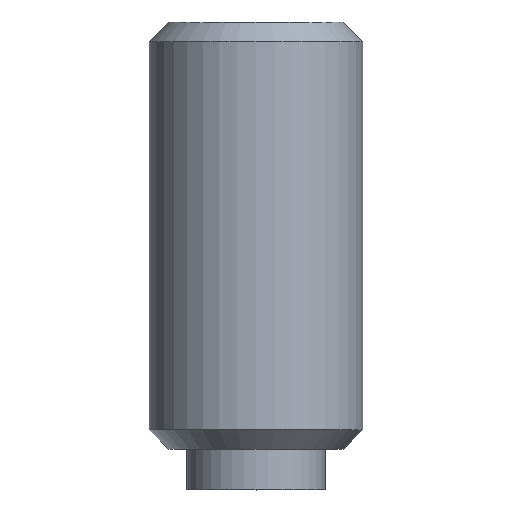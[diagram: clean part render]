
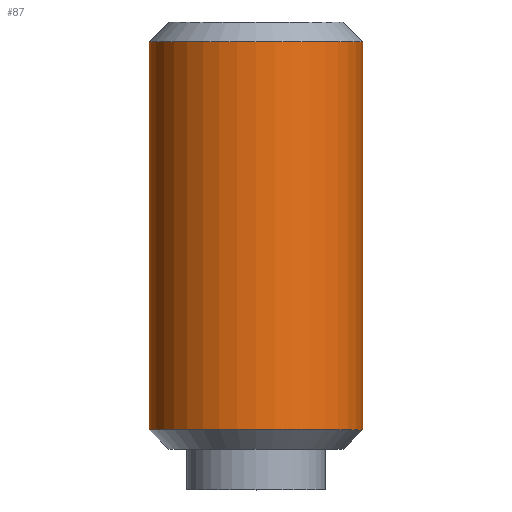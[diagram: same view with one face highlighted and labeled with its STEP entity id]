
A CAD part, top view. The second image highlights one B-rep face of the part: STEP entity #87.
In plain terms, the highlighted cylindrical face has radius 5 mm (diameter 10 mm), a full revolution.
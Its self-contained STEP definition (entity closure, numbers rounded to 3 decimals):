
#87 = ADVANCED_FACE( '', ( #118, #119 ), #120, .T. );
#118 = FACE_OUTER_BOUND( '', #152, .T. );
#119 = FACE_OUTER_BOUND( '', #153, .T. );
#120 = CYLINDRICAL_SURFACE( '', #154, 5. );
#152 = EDGE_LOOP( '', ( #238 ) );
#153 = EDGE_LOOP( '', ( #239 ) );
#154 = AXIS2_PLACEMENT_3D( '', #240, #241, #242 );
#238 = ORIENTED_EDGE( '', *, *, #270, .F. );
#239 = ORIENTED_EDGE( '', *, *, #271, .T. );
#240 = CARTESIAN_POINT( '', ( 0., 0., 0. ) );
#241 = DIRECTION( '', ( 0., 1., 0. ) );
#242 = DIRECTION( '', ( 0., 0., -1. ) );
#270 = EDGE_CURVE( '', #310, #310, #311, .T. );
#271 = EDGE_CURVE( '', #312, #312, #313, .T. );
#310 = VERTEX_POINT( '', #370 );
#311 = CIRCLE( '', #371, 5. );
#312 = VERTEX_POINT( '', #372 );
#313 = CIRCLE( '', #373, 5. );
#370 = CARTESIAN_POINT( '', ( 0., 2.82, -5. ) );
#371 = AXIS2_PLACEMENT_3D( '', #404, #405, #406 );
#372 = CARTESIAN_POINT( '', ( 0., 20.98, -5. ) );
#373 = AXIS2_PLACEMENT_3D( '', #407, #408, #409 );
#404 = CARTESIAN_POINT( '', ( 0., 2.82, 0. ) );
#405 = DIRECTION( '', ( 0., -1., 0. ) );
#406 = DIRECTION( '', ( 0., 0., -1. ) );
#407 = CARTESIAN_POINT( '', ( 0., 20.98, 0. ) );
#408 = DIRECTION( '', ( 0., -1., 0. ) );
#409 = DIRECTION( '', ( 0., 0., -1. ) );
